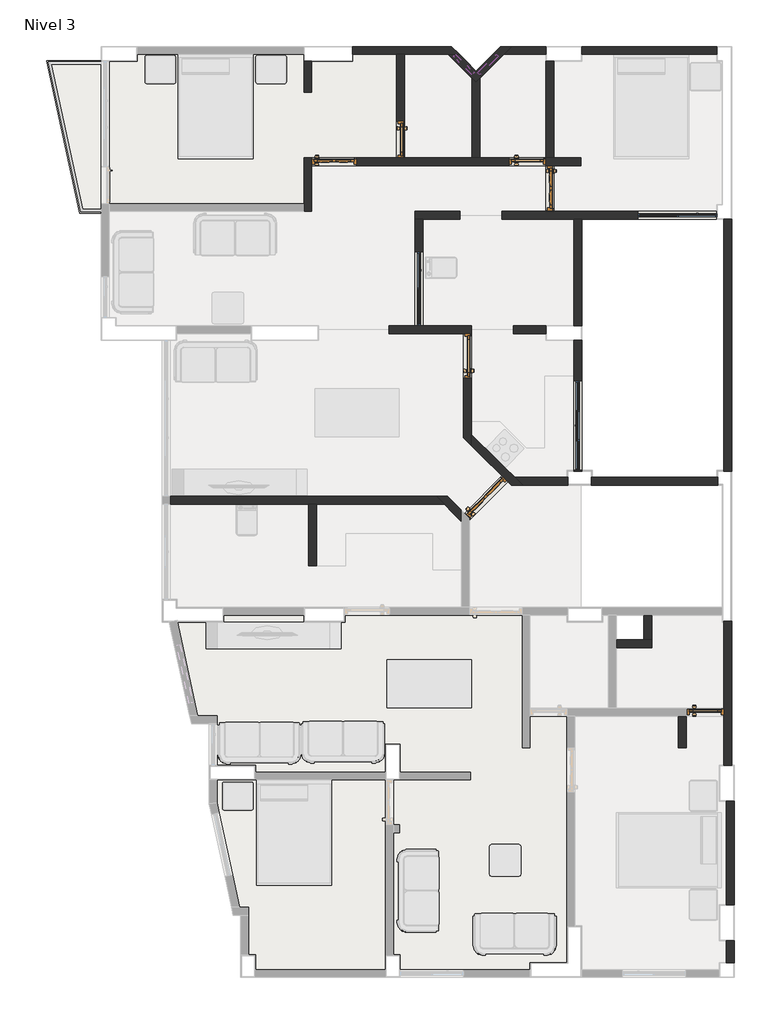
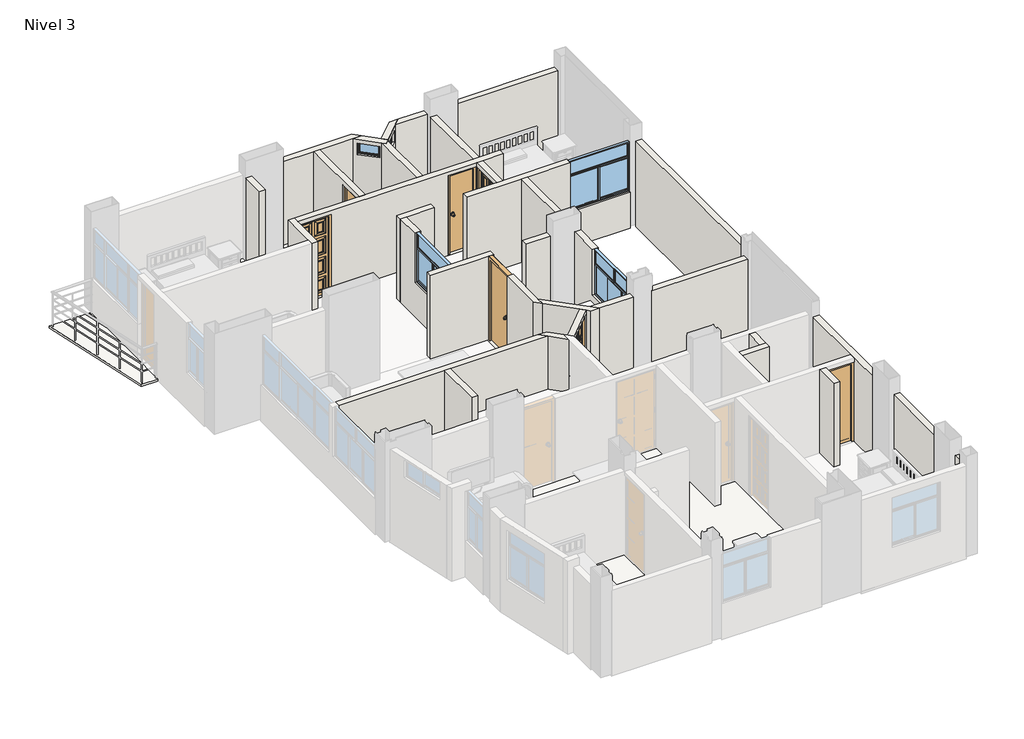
# One storey, part 2 of 4: 33 walls, 7 doors, 5 windows, 3 slabs.
"""IFC4 building model written with IfcOpenShell, lengths in millimetres."""

from ifc_helpers import new_model, si_unit, frame, origin, place, context, project, spatial, polyline, outline, extrude, faceted_brep, transform, mapped, element, save
from components import door_81789954, door_be1cc8a4, door_cacd1893, door_2d542328, door_b74d320c, door_1edce65c, puerta_interior_pi_0_85x2_10_m_9cadf999, puerta_interior_pi_0_85x2_10_m_c76ccc0d, puerta_interior_pi_0_85x2_10_m_f933acae, puerta_interior_pi_0_85x2_10_m_d21131e5, puerta_interior_pi_1_00x2_10_m_83b77251, puerta_interior_pi_1_00x2_10_m_a31ecc94, puerta_interior_pi_1_00x2_10_m_514a608a, puerta_interior_pi_1_00x2_10_m_a5189380, vb_1_40x1_30_m_7c4907bb, vb_1_50x1_30_m_f73e4b78, vb_1_70x1_20_m_a559326e, ventana_alta_1_cuerpo_va_0_50x0_30_m_a0596043

model = new_model("IFC4")

# Units and contexts
model_context = context("Model", 3, world=origin())
ifc_project = project(units=[si_unit("LENGTHUNIT", "METRE", prefix="MILLI")], contexts=[model_context])

# Site, building, storey
site = spatial("IfcSite", under=ifc_project)
building = spatial("IfcBuilding", under=site)
storey = spatial("IfcBuildingStorey", under=building, Name="Nivel 3", Elevation=5450.0)

# Doors
placement = place(None, origin())
door_shape = door_81789954(model_context)
door_2_shape = door_be1cc8a4(model_context)
door_3_shape = door_cacd1893(model_context)
element("IfcDoor", 1, ObjectType="Puerta contraplacada : Puerta contraplacada 0.7x2.10 m", at=placement, inside=storey, context=model_context, shape_type="MappedRepresentation", body=[
    mapped(door_shape, transform((8815.0, 5025.0, 5450.0), x_axis=(-1.0, 0.0, 0.0), y_axis=(0.0, -1.0, 0.0), z_axis=(0.0, 0.0, 1.0))),
    mapped(door_2_shape, transform((8815.0, 5025.0, 5450.0), x_axis=(-1.0, 0.0, 0.0), y_axis=(0.0, -1.0, 0.0), z_axis=(0.0, 0.0, 1.0))),
    mapped(door_3_shape, transform((8815.0, 5025.0, 5450.0), x_axis=(-1.0, 0.0, 0.0), y_axis=(0.0, -1.0, 0.0), z_axis=(0.0, 0.0, 1.0))),
])
element("IfcDoor", 2, ObjectType="Puerta contraplacada : Puerta contraplacada 0.7x2.10 m", at=placement, inside=storey, context=model_context, shape_type="MappedRepresentation", body=[
    mapped(door_shape, transform((5435.0, 15475.0, 5450.0), x_axis=(-1.0, 0.0, 0.0), y_axis=(0.0, -1.0, 0.0), z_axis=(0.0, 0.0, 1.0))),
    mapped(door_2_shape, transform((5435.0, 15475.0, 5450.0), x_axis=(-1.0, 0.0, 0.0), y_axis=(0.0, -1.0, 0.0), z_axis=(0.0, 0.0, 1.0))),
    mapped(door_3_shape, transform((5435.0, 15475.0, 5450.0), x_axis=(-1.0, 0.0, 0.0), y_axis=(0.0, -1.0, 0.0), z_axis=(0.0, 0.0, 1.0))),
])
element("IfcDoor", 3, ObjectType="Puerta contraplacada : Puerta contraplacada 0.7x2.10 m", at=placement, inside=storey, context=model_context, shape_type="MappedRepresentation", body=[
    mapped(door_shape, transform((3024.905684, 15900.0, 5450.0), x_axis=(0.0, 1.0, 0.0), y_axis=(-1.0, 0.0, 0.0), z_axis=(0.0, 0.0, 1.0))),
    mapped(door_2_shape, transform((3024.905684, 15900.0, 5450.0), x_axis=(0.0, 1.0, 0.0), y_axis=(-1.0, 0.0, 0.0), z_axis=(0.0, 0.0, 1.0))),
    mapped(door_3_shape, transform((3024.905684, 15900.0, 5450.0), x_axis=(0.0, 1.0, 0.0), y_axis=(-1.0, 0.0, 0.0), z_axis=(0.0, 0.0, 1.0))),
])
door_4_shape = door_2d542328(model_context)
door_5_shape = door_b74d320c(model_context)
door_6_shape = door_1edce65c(model_context)
element("IfcDoor", 4, ObjectType="Puerta contraplacada Vaiven : Puerta contraplacada 0.85x2.10 m", at=placement, inside=storey, context=model_context, shape_type="MappedRepresentation", body=[
    mapped(door_4_shape, transform((4295.0005808, 11790.0, 5450.0), x_axis=(0.0, -1.0, 0.0), y_axis=(1.0, 0.0, 0.0), z_axis=(0.0, 0.0, 1.0))),
    mapped(door_5_shape, transform((4295.0005808, 11790.0, 5450.0), x_axis=(0.0, -1.0, 0.0), y_axis=(1.0, 0.0, 0.0), z_axis=(0.0, 0.0, 1.0))),
    mapped(door_6_shape, transform((4295.0005808, 11790.0, 5450.0), x_axis=(0.0, -1.0, 0.0), y_axis=(1.0, 0.0, 0.0), z_axis=(0.0, 0.0, 1.0))),
])
puerta_interior_pi_0_85x2_10_m_shape = puerta_interior_pi_0_85x2_10_m_9cadf999(model_context)
puerta_interior_pi_0_85x2_10_m_2_shape = puerta_interior_pi_0_85x2_10_m_c76ccc0d(model_context)
puerta_interior_pi_0_85x2_10_m_3_shape = puerta_interior_pi_0_85x2_10_m_f933acae(model_context)
puerta_interior_pi_0_85x2_10_m_4_shape = puerta_interior_pi_0_85x2_10_m_d21131e5(model_context)
element("IfcDoor", 5, ObjectType="Puerta Interior : PI_0.85x2.10 m", at=placement, inside=storey, context=model_context, shape_type="MappedRepresentation", body=[
    mapped(puerta_interior_pi_0_85x2_10_m_shape, transform((1760.0, 15475.0, 5450.0), x_axis=(-1.0, 0.0, 0.0), y_axis=(0.0, -1.0, 0.0), z_axis=(0.0, 0.0, 1.0))),
    mapped(puerta_interior_pi_0_85x2_10_m_2_shape, transform((1760.0, 15475.0, 5450.0), x_axis=(-1.0, 0.0, 0.0), y_axis=(0.0, -1.0, 0.0), z_axis=(0.0, 0.0, 1.0))),
    mapped(puerta_interior_pi_0_85x2_10_m_3_shape, transform((1760.0, 15475.0, 5450.0), x_axis=(-1.0, 0.0, 0.0), y_axis=(0.0, -1.0, 0.0), z_axis=(0.0, 0.0, 1.0))),
    mapped(puerta_interior_pi_0_85x2_10_m_4_shape, transform((1760.0, 15475.0, 5450.0), x_axis=(-1.0, 0.0, 0.0), y_axis=(0.0, -1.0, 0.0), z_axis=(0.0, 0.0, 1.0))),
])
element("IfcDoor", 6, ObjectType="Puerta Interior : PI_0.85x2.10 m", at=placement, inside=storey, context=model_context, shape_type="MappedRepresentation", body=[
    mapped(puerta_interior_pi_0_85x2_10_m_shape, transform((5860.0, 14975.0, 5450.0), x_axis=(0.0, 1.0, 0.0), y_axis=(-1.0, 0.0, 0.0), z_axis=(0.0, 0.0, 1.0))),
    mapped(puerta_interior_pi_0_85x2_10_m_2_shape, transform((5860.0, 14975.0, 5450.0), x_axis=(0.0, 1.0, 0.0), y_axis=(-1.0, 0.0, 0.0), z_axis=(0.0, 0.0, 1.0))),
    mapped(puerta_interior_pi_0_85x2_10_m_3_shape, transform((5860.0, 14975.0, 5450.0), x_axis=(0.0, 1.0, 0.0), y_axis=(-1.0, 0.0, 0.0), z_axis=(0.0, 0.0, 1.0))),
    mapped(puerta_interior_pi_0_85x2_10_m_4_shape, transform((5860.0, 14975.0, 5450.0), x_axis=(0.0, 1.0, 0.0), y_axis=(-1.0, 0.0, 0.0), z_axis=(0.0, 0.0, 1.0))),
])
puerta_interior_pi_1_00x2_10_m_shape = puerta_interior_pi_1_00x2_10_m_83b77251(model_context)
puerta_interior_pi_1_00x2_10_m_2_shape = puerta_interior_pi_1_00x2_10_m_a31ecc94(model_context)
puerta_interior_pi_1_00x2_10_m_3_shape = puerta_interior_pi_1_00x2_10_m_514a608a(model_context)
puerta_interior_pi_1_00x2_10_m_4_shape = puerta_interior_pi_1_00x2_10_m_a5189380(model_context)
element("IfcDoor", 7, ObjectType="Puerta Interior : PI_1.00x2.10 m", at=placement, inside=storey, context=model_context, shape_type="MappedRepresentation", body=[
    mapped(puerta_interior_pi_1_00x2_10_m_shape, transform((4654.8981784, 9101.2074272, 5450.0), x_axis=(-0.702923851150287, -0.7112651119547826, 0.0), y_axis=(0.7112651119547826, -0.702923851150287, 0.0), z_axis=(0.0, 0.0, 1.0))),
    mapped(puerta_interior_pi_1_00x2_10_m_2_shape, transform((4654.8981784, 9101.2074272, 5450.0), x_axis=(-0.702923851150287, -0.7112651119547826, 0.0), y_axis=(0.7112651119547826, -0.702923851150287, 0.0), z_axis=(0.0, 0.0, 1.0))),
    mapped(puerta_interior_pi_1_00x2_10_m_3_shape, transform((4654.8981784, 9101.2074272, 5450.0), x_axis=(-0.702923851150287, -0.7112651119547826, 0.0), y_axis=(0.7112651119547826, -0.702923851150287, 0.0), z_axis=(0.0, 0.0, 1.0))),
    mapped(puerta_interior_pi_1_00x2_10_m_4_shape, transform((4654.8981784, 9101.2074272, 5450.0), x_axis=(-0.702923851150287, -0.7112651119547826, 0.0), y_axis=(0.7112651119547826, -0.702923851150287, 0.0), z_axis=(0.0, 0.0, 1.0))),
])

# Slabs
element("IfcSlab", 8, ObjectType="Piso Acabado 5cm", at=placement, inside=storey, context=model_context, shape_type="SweptSolid", body=[
    extrude(outline(polyline([(2735.0, 135.0), (265.0, 135.0), (265.0, 415.0), (135.0, 415.0), (135.0, 1320.0), (-35.0804526, 1320.0), (-465.0, 3302.9622535), (-465.0, 3735.0), (2885.0, 3735.0), (2885.0, 2885.0), (2735.0, 2885.0), (2735.0, 135.0)])), frame((0.0, 0.0, 5400.0), z_axis=(0.0, 0.0, 1.0), x_axis=(1.0, 0.0, 0.0)), (0.0, 0.0, 1.0), 50.0),
])
element("IfcSlab", 9, ObjectType="Piso Acabado 5cm", at=placement, inside=storey, context=model_context, shape_type="SweptSolid", body=[
    extrude(outline(polyline([(2885.0, 2735.0), (3000.0, 2735.0), (3000.0, 2885.0), (2885.0, 2885.0), (2885.0, 3735.0), (4352.1220375, 3735.0), (4352.1220375, 3885.0), (3015.0, 3885.0), (3015.0, 4415.0), (2735.0, 4415.0), (2735.0, 3885.0), (265.0, 3885.0), (265.0, 4015.0), (-465.0, 4015.0), (-465.0, 4950.7253635), (-830.9414428, 4950.7253635), (-1216.8940234, 6735.0), (-335.0, 6735.0), (-335.0, 6865.0), (1185.0, 6865.0), (1185.0, 6735.0), (1965.0, 6735.0), (1965.0, 6865.0), (5335.0, 6865.0), (5335.0, 4350.0), (5485.0, 4350.0), (5485.0, 4975.0), (6185.0, 4975.0), (6185.0, 265.0), (5485.0, 265.0), (5485.0, 135.0), (3015.0, 135.0), (3015.0, 415.0), (2885.0, 415.0), (2885.0, 2735.0)])), frame((0.0, 0.0, 5400.0), z_axis=(0.0, 0.0, 1.0), x_axis=(1.0, 0.0, 0.0)), (0.0, 0.0, 1.0), 50.0),
])
element("IfcSlab", 10, ObjectType="Piso Acabado 5cm", at=placement, inside=storey, context=model_context, shape_type="SweptSolid", body=[
    extrude(outline(polyline([(-1985.0, 17385.0), (-1985.0, 17515.0), (1185.0, 17515.0), (1185.0, 16800.0), (1335.0, 16800.0), (1335.0, 17385.0), (2115.0, 17385.0), (2115.0, 17515.0), (2949.905684, 17515.0), (2949.905684, 15550.0), (2185.0, 15550.0), (2185.0, 15400.0), (1335.0, 15400.0), (1335.0, 15550.0), (1185.0, 15550.0), (1185.0, 14683.4801072), (-2665.0, 14683.4801072), (-2665.0, 14503.6972314), (-3078.5268652, 14503.6972314), (-3705.0198416, 17400.0), (-2665.0, 17400.0), (-2665.0, 17385.0), (-1985.0, 17385.0)])), frame((0.0, 0.0, 5400.0), z_axis=(0.0, 0.0, 1.0), x_axis=(1.0, 0.0, 0.0)), (0.0, 0.0, 1.0), 50.0),
])

# Walls
element("IfcWall", 11, ObjectType="AMS_Muro Interior-Exterior, e=15 cm", at=placement, inside=storey, context=model_context, shape_type="Brep", body=[
    faceted_brep([(2115.0, 17515.0, 5400.0), (2949.905684, 17515.0, 5400.0), (3099.905684, 17515.0, 5400.0), (3927.8210981, 17515.0, 5400.0), (4139.9531324, 17515.0, 5400.0), (4139.9531324, 17515.0, 7250.0), (4062.8463512, 17515.0, 7250.0), (4062.8463512, 17515.0, 7550.0), (4139.9531324, 17515.0, 7550.0), (4139.9531324, 17515.0, 7650.0), (3927.8210981, 17515.0, 7650.0), (3099.905684, 17515.0, 7650.0), (2949.905684, 17515.0, 7650.0), (2115.0, 17515.0, 7650.0), (3989.9531324, 17665.0, 5400.0), (2115.0, 17665.0, 5400.0), (2115.0, 17665.0, 5450.0), (2115.0, 17665.0, 7650.0), (3989.9531324, 17665.0, 7650.0), (4101.3997418, 17553.5533906, 7550.0), (4101.3997418, 17553.5533906, 7250.0)], [[[0, 1, 2, 3, 4, 5, 6, 7, 8, 9, 10, 11, 12, 13]], [[14, 15, 16, 17, 18]], [[4, 3, 2, 1, 0, 15, 14]], [[13, 12, 11, 10, 9, 18, 17]], [[0, 13, 17, 16, 15]], [[4, 14, 18, 9, 8, 19, 20, 5]], [[7, 19, 8]], [[19, 7, 6, 20]], [[20, 6, 5]]]),
])
element("IfcWall", 12, ObjectType="AMS_Muro Interior-Exterior, e=15 cm", at=placement, inside=storey, context=model_context, shape_type="Brep", body=[
    faceted_brep([(3927.8210981, 17515.0, 5400.0), (4379.9531324, 17062.8679656, 5400.0), (4454.9531324, 16987.8679656, 5400.0), (4454.9531324, 16987.8679656, 7650.0), (4379.9531324, 17062.8679656, 7650.0), (3927.8210981, 17515.0, 7650.0), (4348.8871152, 17093.9339828, 7550.0), (4348.8871152, 17093.9339828, 7250.0), (3995.3337246, 17447.4873734, 7250.0), (3995.3337246, 17447.4873734, 7550.0), (4561.0191496, 17093.9339828, 5400.0), (4454.9531324, 17200.0, 5400.0), (4139.9531324, 17515.0, 5400.0), (4139.9531324, 17515.0, 7250.0), (4454.9531324, 17200.0, 7250.0), (4454.9531324, 17200.0, 7550.0), (4139.9531324, 17515.0, 7550.0), (4139.9531324, 17515.0, 7650.0), (4454.9531324, 17200.0, 7650.0), (4561.0191496, 17093.9339828, 7650.0), (4561.0191496, 17093.9339828, 7550.0), (4561.0191496, 17093.9339828, 7250.0), (4529.9531324, 17062.8679656, 5400.0), (4529.9531324, 17062.8679656, 7650.0), (4062.8463512, 17515.0, 7550.0), (4062.8463512, 17515.0, 7250.0)], [[[0, 1, 2, 3, 4, 5], [6, 7, 8, 9]], [[10, 11, 12, 13, 14, 15, 16, 17, 18, 19, 20, 21]], [[2, 1, 0, 12, 11, 10, 22]], [[5, 4, 3, 23, 19, 18, 17]], [[0, 5, 17, 16, 24, 25, 13, 12]], [[3, 2, 22, 10, 21, 20, 19, 23]], [[14, 7, 6, 15]], [[15, 6, 9, 24, 16]], [[24, 9, 8, 25]], [[7, 14, 13, 25, 8]]]),
])
element("IfcWall", 13, ObjectType="AMS_Muro Interior-Exterior, e=15 cm", at=placement, inside=storey, context=model_context, shape_type="Brep", body=[
    faceted_brep([(4914.5725402, 17447.4873734, 7250.0), (4561.0191496, 17093.9339828, 7250.0), (4561.0191496, 17093.9339828, 5400.0), (4982.0851668, 17515.0, 5400.0), (5132.0851668, 17665.0, 5400.0), (5132.0851668, 17665.0, 7650.0), (4982.0851668, 17515.0, 7650.0), (4561.0191496, 17093.9339828, 7650.0), (4561.0191496, 17093.9339828, 7550.0), (4914.5725402, 17447.4873734, 7550.0), (4454.9531324, 17200.0, 5400.0), (4454.9531324, 17200.0, 7250.0), (4808.506523, 17553.5533906, 7250.0), (4808.506523, 17553.5533906, 7550.0), (4454.9531324, 17200.0, 7550.0), (4454.9531324, 17200.0, 7650.0), (4919.9531324, 17665.0, 7650.0), (4919.9531324, 17665.0, 5400.0)], [[[0, 1, 2, 3, 4, 5, 6, 7, 8, 9]], [[10, 11, 12, 13, 14, 15, 16, 17]], [[4, 3, 2, 10, 17]], [[7, 6, 5, 16, 15]], [[8, 7, 15, 14]], [[2, 1, 11, 10]], [[5, 4, 17, 16]], [[13, 12, 0, 9]], [[14, 13, 9, 8]], [[12, 11, 1, 0]]]),
])
element("IfcWall", 14, ObjectType="AMS_Muro Interior-Exterior, e=15 cm", at=placement, inside=storey, context=model_context, shape_type="Brep", body=[
    faceted_brep([(4982.0851668, 17515.0, 5400.0), (5785.0, 17515.0, 5400.0), (5785.0, 17515.0, 7650.0), (4982.0851668, 17515.0, 7650.0), (5132.0851668, 17665.0, 5400.0), (5132.0851668, 17665.0, 7650.0), (5785.0, 17665.0, 7650.0), (5785.0, 17665.0, 5450.0), (5785.0, 17665.0, 5400.0)], [[[0, 1, 2, 3]], [[4, 5, 6, 7, 8]], [[1, 0, 4, 8]], [[2, 1, 8, 7, 6]], [[3, 2, 6, 5]], [[0, 3, 5, 4]]]),
])
element("IfcWall", 15, ObjectType="AMS_Muro Interior-Exterior, e=15 cm", at=placement, inside=storey, context=model_context, shape_type="Brep", body=[
    faceted_brep([(6465.0, 17515.0, 5400.0), (9035.0, 17515.0, 5400.0), (9035.0, 17515.0, 7650.0), (6465.0, 17515.0, 7650.0), (6465.0, 17665.0, 5400.0), (6465.0, 17665.0, 5450.0), (6465.0, 17665.0, 7650.0), (9035.0, 17665.0, 7650.0), (9035.0, 17665.0, 5450.0), (9035.0, 17665.0, 5400.0)], [[[0, 1, 2, 3]], [[4, 5, 6, 7, 8, 9]], [[1, 0, 4, 9]], [[2, 1, 9, 8, 7]], [[3, 2, 7, 6]], [[0, 3, 6, 5, 4]]]),
])
element("IfcWall", 16, ObjectType="AMS_Muro Interior-Interior, e=15 cm", at=placement, inside=storey, context=model_context, shape_type="SweptSolid", body=[
    extrude(outline(polyline([(4379.9531324, 15550.0), (4379.9531324, 17062.8679656), (4454.9531324, 16987.8679656), (4529.9531324, 17062.8679656), (4529.9531324, 15550.0), (4379.9531324, 15550.0)])), frame((0.0, 0.0, 5400.0), z_axis=(0.0, 0.0, 1.0), x_axis=(1.0, 0.0, 0.0)), (0.0, 0.0, 1.0), 2250.0),
])
element("IfcWall", 17, ObjectType="AMS_Muro Interior-Interior, e=15 cm", at=placement, inside=storey, context=model_context, shape_type="Brep", body=[
    faceted_brep([(1185.0, 17385.0, 5400.0), (1185.0, 16800.0, 5400.0), (1185.0, 16800.0, 7650.0), (1185.0, 17385.0, 7650.0), (1185.0, 17385.0, 5450.0), (1335.0, 17385.0, 5400.0), (1335.0, 17385.0, 7650.0), (1335.0, 16800.0, 7650.0), (1335.0, 16800.0, 5400.0)], [[[0, 1, 2, 3, 4]], [[5, 6, 7, 8]], [[1, 0, 5, 8]], [[2, 1, 8, 7]], [[3, 2, 7, 6]], [[0, 4, 3, 6, 5]]]),
])
element("IfcWall", 18, ObjectType="AMS_Muro Interior-Interior, e=15 cm", at=placement, inside=storey, context=model_context, shape_type="Brep", body=[
    faceted_brep([(1185.0, 15550.0, 5400.0), (1185.0, 14683.4801072, 5400.0), (1185.0, 14533.4801072, 5400.0), (1185.0, 14533.4801072, 7650.0), (1185.0, 14683.4801072, 7650.0), (1185.0, 15550.0, 7650.0), (1335.0, 15550.0, 5400.0), (1335.0, 15550.0, 5450.0), (1335.0, 15550.0, 7550.0), (1335.0, 15550.0, 7650.0), (1335.0, 15400.0, 7650.0), (1335.0, 14533.4801072, 7650.0), (1335.0, 14533.4801072, 5400.0), (1335.0, 15400.0, 5400.0)], [[[0, 1, 2, 3, 4, 5]], [[6, 7, 8, 9, 10, 11, 12, 13]], [[2, 1, 0, 6, 13, 12]], [[5, 4, 3, 11, 10, 9]], [[3, 2, 12, 11]], [[0, 5, 9, 8, 7, 6]]]),
])
element("IfcWall", 19, ObjectType="AMS_Muro Interior-Interior, e=15 cm", at=placement, inside=storey, context=model_context, shape_type="Brep", body=[
    faceted_brep([(1335.0, 15400.0, 7650.0), (1335.0, 15400.0, 7550.0), (2185.0, 15400.0, 7550.0), (2185.0, 15400.0, 5450.0), (1335.0, 15400.0, 5450.0), (1335.0, 15400.0, 5400.0), (5785.0, 15400.0, 5400.0), (5935.0, 15400.0, 5400.0), (6450.0, 15400.0, 5400.0), (6450.0, 15400.0, 7650.0), (5935.0, 15400.0, 7650.0), (5785.0, 15400.0, 7650.0), (5085.0, 15400.0, 5450.0), (5085.0, 15400.0, 7550.0), (5785.0, 15400.0, 7550.0), (5785.0, 15400.0, 5450.0), (2185.0, 15550.0, 7550.0), (1335.0, 15550.0, 7550.0), (1335.0, 15550.0, 7650.0), (2949.905684, 15550.0, 7650.0), (3099.905684, 15550.0, 7650.0), (4379.9531324, 15550.0, 7650.0), (4529.9531324, 15550.0, 7650.0), (5785.0, 15550.0, 7650.0), (5935.0, 15550.0, 7650.0), (6450.0, 15550.0, 7650.0), (6450.0, 15550.0, 5400.0), (5935.0, 15550.0, 5400.0), (5785.0, 15550.0, 5400.0), (4529.9531324, 15550.0, 5400.0), (4379.9531324, 15550.0, 5400.0), (3099.905684, 15550.0, 5400.0), (2949.905684, 15550.0, 5400.0), (1335.0, 15550.0, 5400.0), (1335.0, 15550.0, 5450.0), (2185.0, 15550.0, 5450.0), (5085.0, 15550.0, 5450.0), (5785.0, 15550.0, 5450.0), (5785.0, 15550.0, 7550.0), (5085.0, 15550.0, 7550.0)], [[[0, 1, 2, 3, 4, 5, 6, 7, 8, 9, 10, 11], [12, 13, 14, 15]], [[16, 17, 18, 19, 20, 21, 22, 23, 24, 25, 26, 27, 28, 29, 30, 31, 32, 33, 34, 35], [36, 37, 38, 39]], [[8, 7, 6, 5, 33, 32, 31, 30, 29, 28, 27, 26]], [[9, 8, 26, 25]], [[0, 11, 10, 9, 25, 24, 23, 22, 21, 20, 19, 18]], [[34, 33, 5, 4]], [[18, 17, 1, 0]], [[2, 1, 17, 16]], [[3, 2, 16, 35]], [[4, 3, 35, 34]], [[13, 12, 36, 39]], [[14, 13, 39, 38]], [[15, 14, 38, 37]], [[12, 15, 37, 36]]]),
])
element("IfcWall", 20, ObjectType="AMS_Muro Interior-Interior, e=15 cm", at=placement, inside=storey, context=model_context, shape_type="Brep", body=[
    faceted_brep([(5935.0, 17385.0, 5400.0), (5935.0, 17385.0, 7650.0), (5935.0, 15550.0, 7650.0), (5935.0, 15550.0, 5400.0), (5785.0, 17385.0, 7650.0), (5785.0, 17385.0, 5450.0), (5785.0, 17385.0, 5400.0), (5785.0, 15550.0, 5400.0), (5785.0, 15550.0, 5450.0), (5785.0, 15550.0, 7550.0), (5785.0, 15550.0, 7650.0)], [[[0, 1, 2, 3]], [[4, 5, 6, 7, 8, 9, 10]], [[6, 0, 3, 7]], [[1, 0, 6, 5, 4]], [[1, 4, 10, 2]], [[3, 2, 10, 9, 8, 7]]]),
    faceted_brep([(5935.0, 14535.0, 7650.0), (5935.0, 14535.0, 5400.0), (5935.0, 15400.0, 5400.0), (5935.0, 15400.0, 5450.0), (5935.0, 14550.0, 5450.0), (5935.0, 14550.0, 7550.0), (5935.0, 15400.0, 7550.0), (5935.0, 15400.0, 7650.0), (5785.0, 14535.0, 5400.0), (5785.0, 14535.0, 7650.0), (5785.0, 15400.0, 7650.0), (5785.0, 15400.0, 7550.0), (5785.0, 14550.0, 7550.0), (5785.0, 14550.0, 5450.0), (5785.0, 15400.0, 5450.0), (5785.0, 15400.0, 5400.0)], [[[0, 1, 2, 3, 4, 5, 6, 7]], [[8, 9, 10, 11, 12, 13, 14, 15]], [[1, 8, 15, 2]], [[9, 0, 7, 10]], [[3, 2, 15, 14]], [[7, 6, 11, 10]], [[1, 0, 9, 8]], [[12, 11, 6, 5]], [[13, 12, 5, 4]], [[14, 13, 4, 3]]]),
])
element("IfcWall", 21, ObjectType="AMS_Muro Interior-Interior, e=15 cm", at=placement, inside=storey, context=model_context, shape_type="SweptSolid", body=[
    extrude(outline(polyline([(15550.0, 5400.0), (15550.0, 5450.0), (16250.0, 5450.0), (16250.0, 7550.0), (15550.0, 7550.0), (15550.0, 7650.0), (17515.0, 7650.0), (17515.0, 5400.0), (15550.0, 5400.0)])), frame((2949.905684, 0.0, 0.0), z_axis=(1.0, 0.0, 0.0), x_axis=(0.0, 1.0, 0.0)), (0.0, 0.0, 1.0), 150.0),
])
element("IfcWall", 22, ObjectType="AMS_Muro Interior-Interior, e=15 cm", at=placement, inside=storey, context=model_context, shape_type="Brep", body=[
    faceted_brep([(9035.0, 14535.0, 5400.0), (5935.0, 14535.0, 5400.0), (5785.0, 14535.0, 5400.0), (4950.0005808, 14535.0, 5400.0), (4950.0005808, 14535.0, 7650.0), (5785.0, 14535.0, 7650.0), (5935.0, 14535.0, 7650.0), (7535.0, 14535.0, 7650.0), (7535.0, 14535.0, 6350.0), (9035.0, 14535.0, 6350.0), (4950.0005808, 14385.0, 5400.0), (6315.0, 14385.0, 5400.0), (6465.0, 14385.0, 5400.0), (9035.0, 14385.0, 5400.0), (9035.0, 14385.0, 5450.0), (9035.0, 14385.0, 6350.0), (7535.0, 14385.0, 6350.0), (7535.0, 14385.0, 7650.0), (6465.0, 14385.0, 7650.0), (6315.0, 14385.0, 7650.0), (4950.0005808, 14385.0, 7650.0)], [[[0, 1, 2, 3, 4, 5, 6, 7, 8, 9]], [[10, 11, 12, 13, 14, 15, 16, 17, 18, 19, 20]], [[3, 2, 1, 0, 13, 12, 11, 10]], [[4, 3, 10, 20]], [[4, 20, 19, 18, 17, 7, 6, 5]], [[13, 0, 9, 15, 14]], [[16, 8, 7, 17]], [[8, 16, 15, 9]]]),
])
element("IfcWall", 23, ObjectType="AMS_Muro Interior-Interior, e=15 cm", at=placement, inside=storey, context=model_context, shape_type="Brep", body=[
    faceted_brep([(4150.0005808, 14535.0, 5400.0), (3300.0005808, 14535.0, 5400.0), (3300.0005808, 14535.0, 7650.0), (4150.0005808, 14535.0, 7650.0), (4150.0005808, 14385.0, 5400.0), (4150.0005808, 14385.0, 7650.0), (3450.0005808, 14385.0, 7650.0), (3300.0005808, 14385.0, 7650.0), (3300.0005808, 14385.0, 5400.0), (3450.0005808, 14385.0, 5400.0)], [[[0, 1, 2, 3]], [[4, 5, 6, 7, 8, 9]], [[1, 0, 4, 9, 8]], [[3, 2, 7, 6, 5]], [[0, 3, 5, 4]], [[2, 1, 8, 7]]]),
])
element("IfcWall", 24, ObjectType="AMS_Muro Interior-Interior, e=15 cm", at=placement, inside=storey, context=model_context, shape_type="SweptSolid", body=[
    extrude(outline(polyline([(14385.0, 5400.0), (12365.0, 5400.0), (12365.0, 6350.0), (13765.0, 6350.0), (13765.0, 7650.0), (14385.0, 7650.0), (14385.0, 5400.0)])), frame((3300.0005808, 0.0, 0.0), z_axis=(1.0, 0.0, 0.0), x_axis=(0.0, 1.0, 0.0)), (0.0, 0.0, 1.0), 150.0),
])
element("IfcWall", 25, ObjectType="AMS_Muro Interior-Interior, e=15 cm", at=placement, inside=storey, context=model_context, shape_type="Brep", body=[
    faceted_brep([(2800.0005808, 12215.0, 5400.0), (4220.0005808, 12215.0, 5400.0), (4370.0005808, 12215.0, 5400.0), (4370.0005808, 12215.0, 5450.0), (4370.0005808, 12215.0, 7650.0), (2800.0005808, 12215.0, 7650.0), (2800.0005808, 12365.0, 5400.0), (2800.0005808, 12365.0, 7650.0), (4370.0005808, 12365.0, 7650.0), (4370.0005808, 12365.0, 5400.0), (3450.0005808, 12365.0, 5400.0), (3300.0005808, 12365.0, 5400.0)], [[[0, 1, 2, 3, 4, 5]], [[6, 7, 8, 9, 10, 11]], [[2, 1, 0, 6, 11, 10, 9]], [[5, 4, 8, 7]], [[0, 5, 7, 6]], [[4, 3, 2, 9, 8]]]),
])
element("IfcWall", 26, ObjectType="AMS_Muro Interior-Interior, e=15 cm", at=placement, inside=storey, context=model_context, shape_type="Brep", body=[
    faceted_brep([(5785.0, 12365.0, 5400.0), (5170.094316, 12365.0, 5400.0), (5170.094316, 12365.0, 7650.0), (5785.0, 12365.0, 7650.0), (5785.0, 12365.0, 5450.0), (5785.0, 12215.0, 5400.0), (5785.0, 12215.0, 7650.0), (5170.094316, 12215.0, 7650.0), (5170.094316, 12215.0, 5400.0)], [[[0, 1, 2, 3, 4]], [[5, 6, 7, 8]], [[1, 0, 5, 8]], [[2, 1, 8, 7]], [[3, 2, 7, 6]], [[0, 4, 3, 6, 5]]]),
])
element("IfcWall", 27, ObjectType="AMS_Muro Interior-Interior, e=15 cm", at=placement, inside=storey, context=model_context, shape_type="Brep", body=[
    faceted_brep([(6315.0, 14385.0, 5400.0), (6315.0, 12365.0, 5400.0), (6315.0, 12365.0, 7650.0), (6315.0, 14385.0, 7650.0), (6465.0, 14385.0, 5400.0), (6465.0, 14385.0, 7650.0), (6465.0, 12365.0, 7650.0), (6465.0, 12365.0, 5450.0), (6465.0, 12365.0, 5400.0)], [[[0, 1, 2, 3]], [[4, 5, 6, 7, 8]], [[1, 0, 4, 8]], [[2, 1, 8, 7, 6]], [[3, 2, 6, 5]], [[0, 3, 5, 4]]]),
])
element("IfcWall", 28, ObjectType="AMS_Muro Interior-Interior, e=15 cm", at=placement, inside=storey, context=model_context, shape_type="Brep", body=[
    faceted_brep([(6465.0, 9615.0, 6450.0), (6465.0, 9615.0, 7650.0), (6465.0, 9600.0, 7650.0), (6465.0, 9600.0, 5450.0), (6465.0, 9600.0, 5400.0), (6465.0, 9615.0, 5400.0), (6465.0, 12085.0, 5400.0), (6465.0, 12085.0, 5450.0), (6465.0, 12085.0, 7650.0), (6465.0, 11315.0, 7650.0), (6465.0, 11315.0, 6450.0), (6315.0, 9600.0, 7650.0), (6315.0, 9615.0, 7650.0), (6315.0, 9615.0, 6450.0), (6315.0, 11315.0, 6450.0), (6315.0, 11315.0, 7650.0), (6315.0, 12085.0, 7650.0), (6315.0, 12085.0, 5400.0), (6315.0, 9615.0, 5400.0), (6315.0, 9600.0, 5400.0), (6315.0, 9600.0, 5450.0)], [[[0, 1, 2, 3, 4, 5, 6, 7, 8, 9, 10]], [[11, 12, 13, 14, 15, 16, 17, 18, 19, 20]], [[6, 5, 4, 19, 18, 17]], [[8, 7, 6, 17, 16]], [[9, 8, 16, 15]], [[2, 1, 12, 11]], [[4, 3, 2, 11, 20, 19]], [[15, 14, 10, 9]], [[13, 12, 1, 0]], [[14, 13, 0, 10]]]),
])
element("IfcWall", 29, ObjectType="AMS_Muro Interior-Interior, e=15 cm", at=placement, inside=storey, context=model_context, shape_type="Brep", body=[
    faceted_brep([(4220.0005808, 12215.0, 5400.0), (4220.0005808, 10233.7695247, 5400.0), (4220.0005808, 10233.7695247, 7650.0), (4220.0005808, 11365.0, 7650.0), (4220.0005808, 11365.0, 5450.0), (4220.0005808, 12215.0, 5450.0), (4370.0005808, 10085.8895972, 5400.0), (4370.0005808, 10296.5278486, 5400.0), (4370.0005808, 12215.0, 5400.0), (4370.0005808, 12215.0, 5450.0), (4370.0005808, 11365.0, 5450.0), (4370.0005808, 11365.0, 7650.0), (4370.0005808, 10296.5278486, 7650.0), (4370.0005808, 10085.8895972, 7650.0)], [[[0, 1, 2, 3, 4, 5]], [[6, 7, 8, 9, 10, 11, 12, 13]], [[1, 0, 8, 7, 6]], [[2, 13, 12, 11, 3]], [[2, 1, 6, 13]], [[8, 0, 5, 9]], [[10, 4, 3, 11]], [[4, 10, 9, 5]]]),
])
element("IfcWall", 30, ObjectType="AMS_Muro Interior-Interior, e=15 cm", at=placement, inside=storey, context=model_context, shape_type="Brep", body=[
    faceted_brep([(4370.0005808, 10085.8895972, 5400.0), (4953.7940571, 9510.3473507, 5400.0), (5060.6123419, 9405.038816, 5400.0), (5131.6552655, 9335.0, 5400.0), (5131.6552655, 9335.0, 7650.0), (5060.6123419, 9405.038816, 7650.0), (4953.7940571, 9510.3473507, 7650.0), (4370.0005808, 10085.8895972, 7650.0), (4370.0005808, 10296.5278486, 5400.0), (4370.0005808, 10296.5278486, 7650.0), (5193.1628539, 9485.0, 7650.0), (5345.3133207, 9335.0, 7650.0), (5345.3133207, 9335.0, 5400.0), (5193.1628539, 9485.0, 5400.0)], [[[0, 1, 2, 3, 4, 5, 6, 7]], [[8, 9, 10, 11, 12, 13]], [[3, 2, 1, 0, 8, 13, 12]], [[7, 6, 5, 4, 11, 10, 9]], [[0, 7, 9, 8]], [[4, 3, 12, 11]]]),
])
element("IfcWall", 31, ObjectType="AMS_Muro Interior-Interior, e=15 cm", at=placement, inside=storey, context=model_context, shape_type="Brep", body=[
    faceted_brep([(6200.0, 9485.0, 5400.0), (6185.0, 9485.0, 5400.0), (5193.1628539, 9485.0, 5400.0), (5193.1628539, 9485.0, 7650.0), (6185.0, 9485.0, 7650.0), (6200.0, 9485.0, 7650.0), (6200.0, 9485.0, 5450.0), (6200.0, 9335.0, 5400.0), (6200.0, 9335.0, 5450.0), (6200.0, 9335.0, 7650.0), (6185.0, 9335.0, 7650.0), (5345.3133207, 9335.0, 7650.0), (5345.3133207, 9335.0, 5400.0), (6185.0, 9335.0, 5400.0), (6200.0, 9350.0, 5400.0), (6200.0, 9350.0, 7650.0)], [[[0, 1, 2, 3, 4, 5, 6]], [[7, 8, 9, 10, 11, 12, 13]], [[2, 1, 0, 14, 7, 13, 12]], [[5, 4, 3, 11, 10, 9, 15]], [[0, 6, 5, 15, 9, 8, 7, 14]], [[3, 2, 12, 11]]]),
])
element("IfcWall", 32, ObjectType="AMS_Muro Interior-Interior, e=15 cm", at=placement, inside=storey, context=model_context, shape_type="Brep", body=[
    faceted_brep([(4185.0, 8855.2632339, 5400.0), (3915.2632339, 9125.0, 5400.0), (3915.2632339, 9125.0, 7650.0), (4185.0, 8855.2632339, 7650.0), (4185.0, 8643.1311996, 5400.0), (4185.0, 8643.1311996, 7650.0), (3853.1311996, 8975.0, 7650.0), (3703.1311996, 9125.0, 7650.0), (3703.1311996, 9125.0, 5400.0), (3853.1311996, 8975.0, 5400.0)], [[[0, 1, 2, 3]], [[4, 5, 6, 7, 8, 9]], [[1, 0, 4, 9, 8]], [[3, 2, 7, 6, 5]], [[0, 3, 5, 4]], [[2, 1, 8, 7]]]),
])
element("IfcWall", 33, ObjectType="AMS_Muro Interior-Interior, e=15 cm", at=placement, inside=storey, context=model_context, shape_type="Brep", body=[
    faceted_brep([(3703.1311996, 9125.0, 5400.0), (-1355.0, 9125.0, 5400.0), (-1355.0, 9125.0, 7650.0), (3703.1311996, 9125.0, 7650.0), (3853.1311996, 8975.0, 5400.0), (3853.1311996, 8975.0, 7650.0), (1425.0005808, 8975.0, 7650.0), (1275.0005808, 8975.0, 7650.0), (-1355.0, 8975.0, 7650.0), (-1355.0, 8975.0, 5400.0), (1275.0005808, 8975.0, 5400.0), (1425.0005808, 8975.0, 5400.0)], [[[0, 1, 2, 3]], [[4, 5, 6, 7, 8, 9, 10, 11]], [[1, 0, 4, 11, 10, 9]], [[3, 2, 8, 7, 6, 5]], [[0, 3, 5, 4]], [[2, 1, 9, 8]]]),
])
element("IfcWall", 34, ObjectType="AMS_Muro Interior-Interior, e=15 cm", at=placement, inside=storey, context=model_context, shape_type="Brep", body=[
    faceted_brep([(4335.0, 8670.8159799, 5400.0), (5060.6123419, 9405.038816, 5400.0), (5060.6123419, 9405.038816, 7650.0), (4335.0, 8670.8159799, 7650.0), (4356.7811363, 8692.8555824, 5450.0), (4356.7811363, 8692.8555824, 7550.0), (5059.7049874, 9404.1206944, 7550.0), (5059.7049874, 9404.1206944, 5450.0), (4246.0541754, 8794.2090586, 5400.0), (4246.0541754, 8794.2090586, 7650.0), (4953.7940571, 9510.3473507, 7650.0), (4953.7940571, 9510.3473507, 5400.0), (4250.0913695, 8798.2941601, 5450.0), (4953.0152206, 9509.5592721, 5450.0), (4953.0152206, 9509.5592721, 7550.0), (4250.0913695, 8798.2941601, 7550.0), (4335.0, 8705.2632339, 5400.0), (4335.0, 8705.2632339, 7650.0)], [[[0, 1, 2, 3], [4, 5, 6, 7]], [[8, 9, 10, 11], [12, 13, 14, 15]], [[1, 0, 16, 8, 11]], [[3, 2, 10, 9, 17]], [[0, 3, 17, 16]], [[2, 1, 11, 10]], [[5, 4, 12, 15]], [[6, 5, 15, 14]], [[7, 6, 14, 13]], [[4, 7, 13, 12]], [[17, 9, 8, 16]]]),
])
element("IfcWall", 35, ObjectType="AMS_Muro Interior-Interior, e=15 cm", at=placement, inside=storey, context=model_context, shape_type="Brep", body=[
    faceted_brep([(7123.0216492, 6250.0, 5400.0), (7798.1159652, 6250.0, 5400.0), (7798.1159652, 6250.0, 7650.0), (7123.0216492, 6250.0, 7650.0), (7123.0216492, 6400.0, 5400.0), (7123.0216492, 6400.0, 7650.0), (7648.1159652, 6400.0, 7650.0), (7798.1159652, 6400.0, 7650.0), (7798.1159652, 6400.0, 5400.0), (7648.1159652, 6400.0, 5400.0)], [[[0, 1, 2, 3]], [[4, 5, 6, 7, 8, 9]], [[1, 0, 4, 9, 8]], [[3, 2, 7, 6, 5]], [[0, 3, 5, 4]], [[2, 1, 8, 7]]]),
])
element("IfcWall", 36, ObjectType="AMS_Muro Interior-Interior, e=15 cm", at=placement, inside=storey, context=model_context, shape_type="SweptSolid", body=[
    extrude(outline(polyline([(7798.1159652, 6865.0), (7798.1159652, 6400.0), (7648.1159652, 6400.0), (7648.1159652, 6865.0), (7798.1159652, 6865.0)])), frame((0.0, 0.0, 5400.0), z_axis=(0.0, 0.0, 1.0), x_axis=(1.0, 0.0, 0.0)), (0.0, 0.0, 1.0), 2250.0),
])
element("IfcWall", 37, ObjectType="AMS_Muro Interior-Exterior, e=15 cm", at=placement, inside=storey, context=model_context, shape_type="Brep", body=[
    faceted_brep([(9165.0, 14385.0, 5400.0), (9165.0, 9615.0, 5400.0), (9165.0, 9600.0, 5400.0), (9165.0, 9600.0, 5450.0), (9165.0, 9600.0, 7650.0), (9165.0, 9615.0, 7650.0), (9165.0, 14385.0, 7650.0), (9315.0, 14385.0, 5400.0), (9315.0, 14385.0, 5450.0), (9315.0, 14385.0, 7650.0), (9315.0, 9615.0, 7650.0), (9315.0, 9600.0, 7650.0), (9315.0, 9600.0, 5450.0), (9315.0, 9600.0, 5400.0), (9315.0, 9615.0, 5400.0), (9300.0, 9600.0, 5400.0), (9300.0, 9600.0, 7650.0)], [[[0, 1, 2, 3, 4, 5, 6]], [[7, 8, 9, 10, 11, 12, 13, 14]], [[2, 1, 0, 7, 14, 13, 15]], [[4, 3, 2, 15, 13, 12, 11, 16]], [[6, 5, 4, 16, 11, 10, 9]], [[0, 6, 9, 8, 7]]]),
])
element("IfcWall", 38, ObjectType="AMS_Muro Interior-Exterior, e=15 cm", at=placement, inside=storey, context=model_context, shape_type="Brep", body=[
    faceted_brep([(9165.0, 6750.0, 5400.0), (9165.0, 6735.0, 5400.0), (9165.0, 5100.0, 5400.0), (9165.0, 4950.0, 5400.0), (9165.0, 4015.0, 5400.0), (9165.0, 4015.0, 7650.0), (9165.0, 4950.0, 7650.0), (9165.0, 5100.0, 7650.0), (9165.0, 6735.0, 7650.0), (9165.0, 6750.0, 7650.0), (9165.0, 6750.0, 5450.0), (9315.0, 6750.0, 5400.0), (9315.0, 6750.0, 5450.0), (9315.0, 6750.0, 7650.0), (9315.0, 6735.0, 7650.0), (9315.0, 4015.0, 7650.0), (9315.0, 4015.0, 5400.0), (9315.0, 6735.0, 5400.0), (9300.0, 6750.0, 5400.0), (9300.0, 6750.0, 7650.0)], [[[0, 1, 2, 3, 4, 5, 6, 7, 8, 9, 10]], [[11, 12, 13, 14, 15, 16, 17]], [[4, 3, 2, 1, 0, 18, 11, 17, 16]], [[5, 4, 16, 15]], [[9, 8, 7, 6, 5, 15, 14, 13, 19]], [[0, 10, 9, 19, 13, 12, 11, 18]]]),
])
element("IfcWall", 39, ObjectType="AMS_Muro Interior-Interior, e=15 cm", at=placement, inside=storey, context=model_context, shape_type="SweptSolid", body=[
    extrude(outline(polyline([(1275.0005808, 7800.0), (1275.0005808, 8975.0), (1425.0005808, 8975.0), (1425.0005808, 7800.0), (1275.0005808, 7800.0)])), frame((0.0, 0.0, 5400.0), z_axis=(0.0, 0.0, 1.0), x_axis=(1.0, 0.0, 0.0)), (0.0, 0.0, 1.0), 2250.0),
])
element("IfcWall", 40, ObjectType="AMS_Muro Interior-Interior, e=15 cm", at=placement, inside=storey, context=model_context, shape_type="SweptSolid", body=[
    extrude(outline(polyline([(8300.0, 4349.9856618), (8300.0, 4950.0), (8450.0, 4950.0), (8450.0, 4349.9856618), (8300.0, 4349.9856618)])), frame((0.0, 0.0, 5400.0), z_axis=(0.0, 0.0, 1.0), x_axis=(1.0, 0.0, 0.0)), (0.0, 0.0, 1.0), 2250.0),
])
element("IfcWall", 41, ObjectType="AMS_Muro Interior-Interior, e=15 cm", at=placement, inside=storey, context=model_context, shape_type="Brep", body=[
    faceted_brep([(6650.0, 9335.0, 5400.0), (6665.0, 9335.0, 5400.0), (9035.0, 9335.0, 5400.0), (9050.0, 9335.0, 5400.0), (9050.0, 9335.0, 5450.0), (9050.0, 9335.0, 7650.0), (9035.0, 9335.0, 7650.0), (6665.0, 9335.0, 7650.0), (6650.0, 9335.0, 7650.0), (6650.0, 9335.0, 5450.0), (6650.0, 9485.0, 5400.0), (6650.0, 9485.0, 5450.0), (6650.0, 9485.0, 7650.0), (6665.0, 9485.0, 7650.0), (9035.0, 9485.0, 7650.0), (9050.0, 9485.0, 7650.0), (9050.0, 9485.0, 5450.0), (9050.0, 9485.0, 5400.0), (9035.0, 9485.0, 5400.0), (6665.0, 9485.0, 5400.0), (6650.0, 9350.0, 5400.0), (9050.0, 9350.0, 5400.0), (9050.0, 9350.0, 7650.0), (6650.0, 9350.0, 7650.0)], [[[0, 1, 2, 3, 4, 5, 6, 7, 8, 9]], [[10, 11, 12, 13, 14, 15, 16, 17, 18, 19]], [[3, 2, 1, 0, 20, 10, 19, 18, 17, 21]], [[5, 4, 3, 21, 17, 16, 15, 22]], [[8, 7, 6, 5, 22, 15, 14, 13, 12, 23]], [[0, 9, 8, 23, 12, 11, 10, 20]]]),
])
element("IfcWall", 42, ObjectType="AMS_Muro Interior-Exterior, e=15 cm", at=placement, inside=storey, context=model_context, shape_type="Brep", body=[
    faceted_brep([(9365.0, 1365.0, 5400.0), (9365.0, 3335.0, 5400.0), (9365.0, 3335.0, 5450.0), (9365.0, 3335.0, 7650.0), (9365.0, 1365.0, 7650.0), (9365.0, 1365.0, 5450.0), (9215.0, 1365.0, 5400.0), (9215.0, 1365.0, 7650.0), (9215.0, 3335.0, 7650.0), (9215.0, 3335.0, 5400.0)], [[[0, 1, 2, 3, 4, 5]], [[6, 7, 8, 9]], [[1, 0, 6, 9]], [[3, 2, 1, 9, 8]], [[4, 3, 8, 7]], [[0, 5, 4, 7, 6]]]),
])
element("IfcWall", 43, ObjectType="AMS_Muro Interior-Exterior, e=15 cm", at=placement, inside=storey, context=model_context, shape_type="Brep", body=[
    faceted_brep([(9215.0, 685.0, 5400.0), (9215.0, 265.0, 5400.0), (9215.0, 265.0, 7650.0), (9215.0, 685.0, 7650.0), (9365.0, 685.0, 5400.0), (9365.0, 685.0, 5450.0), (9365.0, 685.0, 7650.0), (9365.0, 265.0, 7650.0), (9365.0, 265.0, 5450.0), (9365.0, 265.0, 5400.0)], [[[0, 1, 2, 3]], [[4, 5, 6, 7, 8, 9]], [[1, 0, 4, 9]], [[2, 1, 9, 8, 7]], [[3, 2, 7, 6]], [[0, 3, 6, 5, 4]]]),
])

# Windows
vb_1_40x1_30_m_shape = vb_1_40x1_30_m_7c4907bb(model_context)
element("IfcWindow", 44, ObjectType="Ventana baja corrediza 2 cuerpos : VB 1.40X1.30 m", at=placement, inside=storey, context=model_context, shape_type="MappedRepresentation", body=[
    mapped(vb_1_40x1_30_m_shape, transform((3375.0005808, 13065.0, 5450.0), x_axis=(0.0, -1.0, 0.0), y_axis=(1.0, 0.0, 0.0), z_axis=(0.0, 0.0, 1.0))),
])
vb_1_50x1_30_m_shape = vb_1_50x1_30_m_f73e4b78(model_context)
element("IfcWindow", 45, ObjectType="Ventana baja corrediza 2 cuerpos : VB 1.50X1.30 m", at=placement, inside=storey, context=model_context, shape_type="MappedRepresentation", body=[
    mapped(vb_1_50x1_30_m_shape, transform((8285.0, 14460.0, 5450.0), x_axis=(-1.0, 0.0, 0.0), y_axis=(0.0, -1.0, 0.0), z_axis=(0.0, 0.0, 1.0))),
])
vb_1_70x1_20_m_shape = vb_1_70x1_20_m_a559326e(model_context)
element("IfcWindow", 46, ObjectType="Ventana baja corrediza 3 cuerpos : VB 1.70x1.20 m", at=placement, inside=storey, context=model_context, shape_type="MappedRepresentation", body=[
    mapped(vb_1_70x1_20_m_shape, transform((6390.0, 10465.0, 5550.0), x_axis=(0.0, -1.0, 0.0), y_axis=(1.0, 0.0, 0.0), z_axis=(0.0, 0.0, 1.0))),
])
ventana_alta_1_cuerpo_va_0_50x0_30_m_shape = ventana_alta_1_cuerpo_va_0_50x0_30_m_a0596043(model_context)
element("IfcWindow", 47, ObjectType="Ventana alta 1 cuerpo : VA 0.50x0.30 m", at=placement, inside=storey, context=model_context, shape_type="MappedRepresentation", body=[
    mapped(ventana_alta_1_cuerpo_va_0_50x0_30_m_shape, transform((4225.1434285, 17323.7436867, 5650.0), x_axis=(-0.7071067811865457, 0.7071067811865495, 0.0), y_axis=(-0.7071067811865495, -0.7071067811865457, 0.0), z_axis=(0.0, 0.0, 1.0))),
])
element("IfcWindow", 48, ObjectType="Ventana alta 1 cuerpo : VA 0.50x0.30 m", at=placement, inside=storey, context=model_context, shape_type="MappedRepresentation", body=[
    mapped(ventana_alta_1_cuerpo_va_0_50x0_30_m_shape, transform((4684.7628363, 17323.7436867, 5650.0), x_axis=(-0.7071067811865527, -0.7071067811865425, 0.0), y_axis=(0.7071067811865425, -0.7071067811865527, 0.0), z_axis=(0.0, 0.0, 1.0))),
])

save(model, "model.ifc")
